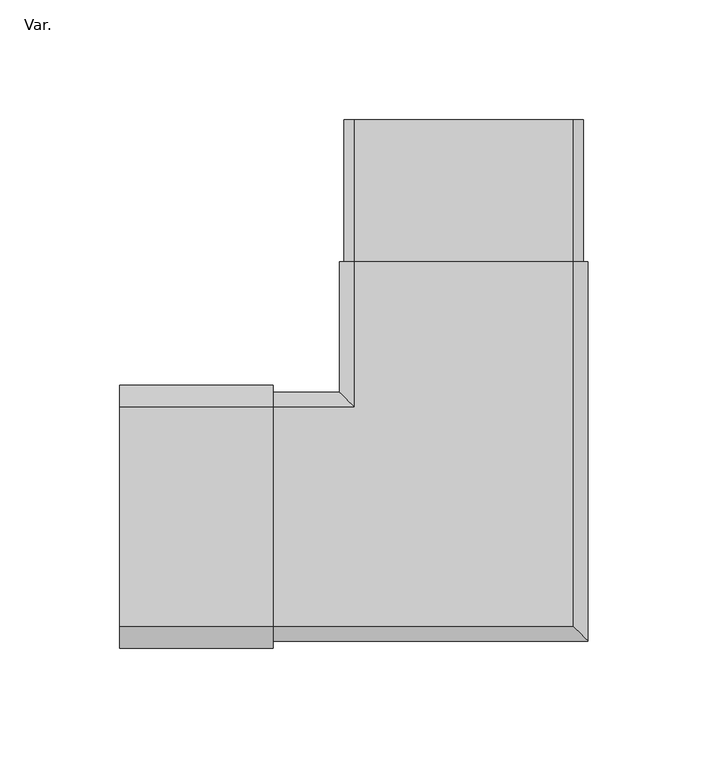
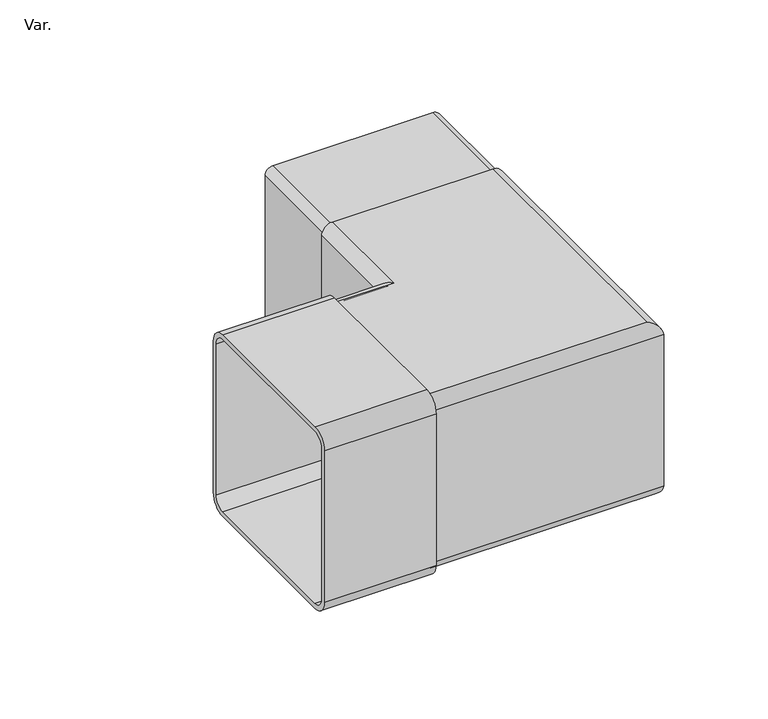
"""IFC4 building model written with IfcOpenShell, lengths in millimetres: pipe fitting geometry, PavcoWavin_UnionesDeTuberia_ZBajante Rainmax_Codo_NoUsarUnion : Var.."""

from ifc_helpers import new_model, si_unit, point, frame, frame_2d, origin, place, context, project, spatial, polyline, circle_curve, ellipse_curve, trimmed, segment, composite_curve, outline, extrude, source, transform, mapped, element, save
from ifc_brep_helpers import plane_surface, cylinder_surface, revolved_surface, advanced_brep


def var_9b596f50(model_context):
    return source(origin(), model_context, "Body", "SolidModel", [
        extrude(outline(composite_curve([segment(polyline([(-45.5, 50.0), (45.5, 50.0)]), True, "CONTINUOUS"), segment(trimmed(circle_curve(frame_2d((45.5, 45.5)), 4.5), [point((45.5, 50.0))], [point((50.0, 45.5))], False, "CARTESIAN"), True, "CONTINUOUS"), segment(polyline([(50.0, 45.5), (50.0, -45.5)]), True, "CONTINUOUS"), segment(trimmed(circle_curve(frame_2d((45.5, -45.5)), 4.5), [point((50.0, -45.5))], [point((45.5, -50.0))], False, "CARTESIAN"), True, "CONTINUOUS"), segment(polyline([(45.5, -50.0), (-45.5, -50.0)]), True, "CONTINUOUS"), segment(trimmed(circle_curve(frame_2d((-45.5, -45.5)), 4.5), [point((-45.5, -50.0))], [point((-50.0, -45.5))], False, "CARTESIAN"), True, "CONTINUOUS"), segment(polyline([(-50.0, -45.5), (-50.0, 45.5)]), True, "CONTINUOUS"), segment(trimmed(circle_curve(frame_2d((-45.5, 45.5)), 4.5), [point((-50.0, 45.5))], [point((-45.5, 50.0))], False, "CARTESIAN"), True, "CONTINUOUS")], self_intersect=False), holes=[composite_curve([segment(trimmed(circle_curve(frame_2d((45.5, 45.5)), 1.6), [point((47.1, 45.5))], [point((45.5, 47.1))], True, "CARTESIAN"), True, "CONTINUOUS"), segment(polyline([(45.5, 47.1), (-45.5, 47.1)]), True, "CONTINUOUS"), segment(trimmed(circle_curve(frame_2d((-45.5, 45.5)), 1.6), [point((-45.5, 47.1))], [point((-47.1, 45.5))], True, "CARTESIAN"), True, "CONTINUOUS"), segment(polyline([(-47.1, 45.5), (-47.1, -45.5)]), True, "CONTINUOUS"), segment(trimmed(circle_curve(frame_2d((-45.5, -45.5)), 1.6), [point((-47.1, -45.5))], [point((-45.5, -47.1))], True, "CARTESIAN"), True, "CONTINUOUS"), segment(polyline([(-45.5, -47.1), (45.5, -47.1)]), True, "CONTINUOUS"), segment(trimmed(circle_curve(frame_2d((45.5, -45.5)), 1.6), [point((45.5, -47.1))], [point((47.1, -45.5))], True, "CARTESIAN"), True, "CONTINUOUS"), segment(polyline([(47.1, -45.5), (47.1, 45.5)]), True, "CONTINUOUS")], self_intersect=False)]), frame((0.0, 106.37, 0.0), z_axis=(0.0, 1.0, 0.0), x_axis=(0.0, 0.0, 1.0)), (0.0, 0.0, 1.0), 59.0),
        advanced_brep(
        [(-79.61, 51.825, 45.625), (-79.61, 51.825, -45.625), (-79.61, 45.625, -51.825), (-79.61, -45.625, -51.825), (-79.61, -51.825, -45.625), (-79.61, -51.825, 45.625), (-79.61, -45.625, 51.825), (-79.61, 45.625, 51.825), (-79.61, 50.0, 45.5), (-79.61, 45.5, 50.0), (-79.61, -45.5, 50.0), (-79.61, -50.0, 45.5), (-79.61, -50.0, -45.5), (-79.61, -45.5, -50.0), (-79.61, 45.5, -50.0), (-79.61, 50.0, -45.5), (-45.5, 45.5, 50.0), (-45.5, 106.37, 50.0), (45.5, 106.37, 50.0), (45.5, -45.5, 50.0), (50.0, -50.0, 45.5), (50.0, -50.0, -45.5), (45.5, -45.5, -50.0), (45.5, 106.37, -50.0), (-45.5, 106.37, -50.0), (-45.5, 45.5, -50.0), (-50.0, 50.0, -45.5), (-50.0, 50.0, 45.5), (-51.825, 51.825, 45.625), (-51.825, 51.825, -45.625), (-45.625, 45.625, -51.825), (-45.625, 106.37, -51.825), (45.625, 106.37, -51.825), (45.625, -45.625, -51.825), (51.825, -51.825, -45.625), (51.825, -51.825, 45.625), (45.625, -45.625, 51.825), (45.625, 106.37, 51.825), (-45.625, 106.37, 51.825), (-45.625, 45.625, 51.825), (-51.825, 106.37, 45.625), (51.825, 106.37, 45.625), (51.825, 106.37, -45.625), (-51.825, 106.37, -45.625), (-50.0, 106.37, 45.5), (-50.0, 106.37, -45.5), (50.0, 106.37, -45.5), (50.0, 106.37, 45.5)],
        [
            (0, 1),
            (1, 2, circle_curve(frame((-79.61, 45.625, -45.625), z_axis=(-1.0, 0.0, 0.0), x_axis=(0.0, 1.0, 0.0)), 6.2)),
            (2, 3),
            (3, 4, circle_curve(frame((-79.61, -45.625, -45.625), z_axis=(-1.0, 0.0, 0.0), x_axis=(0.0, 1.0, 0.0)), 6.2)),
            (4, 5),
            (5, 6, circle_curve(frame((-79.61, -45.625, 45.625), z_axis=(-1.0, 0.0, 0.0), x_axis=(0.0, 1.0, 0.0)), 6.2)),
            (6, 7),
            (7, 0, circle_curve(frame((-79.61, 45.625, 45.625), z_axis=(-1.0, 0.0, 0.0), x_axis=(0.0, 1.0, 0.0)), 6.2)),
            (8, 9, circle_curve(frame((-79.61, 45.5, 45.5), z_axis=(1.0, 0.0, 0.0), x_axis=(0.0, 1.0, 0.0)), 4.5)),
            (9, 10),
            (10, 11, circle_curve(frame((-79.61, -45.5, 45.5), z_axis=(1.0, 0.0, 0.0), x_axis=(0.0, 1.0, 0.0)), 4.5)),
            (11, 12),
            (12, 13, circle_curve(frame((-79.61, -45.5, -45.5), z_axis=(1.0, 0.0, 0.0), x_axis=(0.0, 1.0, 0.0)), 4.5)),
            (13, 14),
            (14, 15, circle_curve(frame((-79.61, 45.5, -45.5), z_axis=(1.0, 0.0, 0.0), x_axis=(0.0, 1.0, 0.0)), 4.5)),
            (15, 8),
            (9, 16),
            (16, 17),
            (17, 18),
            (18, 19),
            (19, 10),
            (11, 20),
            (20, 21),
            (21, 12),
            (13, 22),
            (22, 23),
            (23, 24),
            (24, 25),
            (25, 14),
            (15, 26),
            (26, 27),
            (27, 8),
            (0, 28),
            (28, 29),
            (29, 1),
            (2, 30),
            (30, 31),
            (31, 32),
            (32, 33),
            (33, 3),
            (4, 34),
            (34, 35),
            (35, 5),
            (6, 36),
            (36, 37),
            (37, 38),
            (38, 39),
            (39, 7),
            (40, 38, circle_curve(frame((-45.625, 106.37, 45.625), z_axis=(0.0, 1.0, 0.0), x_axis=(-1.0, 0.0, 0.0)), 6.2)),
            (37, 41, circle_curve(frame((45.625, 106.37, 45.625), z_axis=(0.0, 1.0, 0.0), x_axis=(-1.0, 0.0, 0.0)), 6.2)),
            (41, 42),
            (42, 32, circle_curve(frame((45.625, 106.37, -45.625), z_axis=(0.0, 1.0, 0.0), x_axis=(-1.0, 0.0, 0.0)), 6.2)),
            (31, 43, circle_curve(frame((-45.625, 106.37, -45.625), z_axis=(0.0, 1.0, 0.0), x_axis=(-1.0, 0.0, 0.0)), 6.2)),
            (43, 40),
            (44, 45),
            (45, 24, circle_curve(frame((-45.5, 106.37, -45.5), z_axis=(0.0, -1.0, 0.0), x_axis=(-1.0, 0.0, 0.0)), 4.5)),
            (23, 46, circle_curve(frame((45.5, 106.37, -45.5), z_axis=(0.0, -1.0, 0.0), x_axis=(-1.0, 0.0, 0.0)), 4.5)),
            (46, 47),
            (47, 18, circle_curve(frame((45.5, 106.37, 45.5), z_axis=(0.0, -1.0, 0.0), x_axis=(-1.0, 0.0, 0.0)), 4.5)),
            (17, 44, circle_curve(frame((-45.5, 106.37, 45.5), z_axis=(0.0, -1.0, 0.0), x_axis=(-1.0, 0.0, 0.0)), 4.5)),
            (20, 47),
            (46, 21),
            (26, 45),
            (44, 27),
            (28, 40),
            (43, 29),
            (34, 42),
            (41, 35),
            (27, 16, ellipse_curve(frame((-45.5, 45.5, 45.5), z_axis=(0.7071067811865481, 0.7071067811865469, 0.0), x_axis=(0.7071067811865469, -0.7071067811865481, 0.0)), 6.363961, 4.5)),
            (19, 20, ellipse_curve(frame((45.5, -45.5, 45.5), z_axis=(0.7071067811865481, 0.7071067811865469, 0.0), x_axis=(0.7071067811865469, -0.7071067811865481, 0.0)), 6.363961, 4.5)),
            (21, 22, ellipse_curve(frame((45.5, -45.5, -45.5), z_axis=(0.7071067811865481, 0.7071067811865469, 0.0), x_axis=(0.7071067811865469, -0.7071067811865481, 0.0)), 6.363961, 4.5)),
            (25, 26, ellipse_curve(frame((-45.5, 45.5, -45.5), z_axis=(0.7071067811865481, 0.7071067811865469, 0.0), x_axis=(0.7071067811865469, -0.7071067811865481, 0.0)), 6.363961, 4.5)),
            (29, 30, ellipse_curve(frame((-45.625, 45.625, -45.625), z_axis=(-0.7071067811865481, -0.7071067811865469, 0.0), x_axis=(-0.7071067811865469, 0.7071067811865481, 0.0)), 8.7681241, 6.2)),
            (33, 34, ellipse_curve(frame((45.625, -45.625, -45.625), z_axis=(-0.7071067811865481, -0.7071067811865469, 0.0), x_axis=(-0.7071067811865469, 0.7071067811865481, 0.0)), 8.7681241, 6.2)),
            (35, 36, ellipse_curve(frame((45.625, -45.625, 45.625), z_axis=(-0.7071067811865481, -0.7071067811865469, 0.0), x_axis=(-0.7071067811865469, 0.7071067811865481, 0.0)), 8.7681241, 6.2)),
            (39, 28, ellipse_curve(frame((-45.625, 45.625, 45.625), z_axis=(-0.7071067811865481, -0.7071067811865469, 0.0), x_axis=(-0.7071067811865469, 0.7071067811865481, 0.0)), 8.7681241, 6.2)),
        ],
        [
            plane_surface(frame((-79.61, 0.0, 0.0), z_axis=(-1.0, 0.0, 0.0), x_axis=(0.0, 0.0, 1.0))),
            plane_surface(frame((-79.61, 45.5, 50.0), z_axis=(0.0, 0.0, -1.0), x_axis=(1.0, 0.0, 0.0))),
            plane_surface(frame((-79.61, -50.0, 45.5), z_axis=(0.0, 1.0, 0.0), x_axis=(1.0, 0.0, 0.0))),
            plane_surface(frame((-79.61, -45.5, -50.0), z_axis=(0.0, 0.0, 1.0), x_axis=(1.0, 0.0, 0.0))),
            plane_surface(frame((-79.61, 50.0, -45.5), z_axis=(0.0, -1.0, 0.0), x_axis=(1.0, 0.0, 0.0))),
            plane_surface(frame((-79.61, 51.825, 45.625), z_axis=(0.0, 1.0, 0.0), x_axis=(1.0, 0.0, 0.0))),
            plane_surface(frame((-79.61, 45.625, -51.825), z_axis=(0.0, 0.0, -1.0), x_axis=(1.0, 0.0, 0.0))),
            plane_surface(frame((-79.61, -51.825, -45.625), z_axis=(0.0, -1.0, 0.0), x_axis=(1.0, 0.0, 0.0))),
            plane_surface(frame((-79.61, -45.625, 51.825), z_axis=(0.0, 0.0, 1.0), x_axis=(1.0, 0.0, 0.0))),
            plane_surface(frame((0.0, 106.37, 0.0), z_axis=(0.0, 1.0, 0.0), x_axis=(0.0, 0.0, 1.0))),
            plane_surface(frame((50.0, -50.0, 45.5), z_axis=(-1.0, 0.0, 0.0), x_axis=(0.0, 1.0, 0.0))),
            plane_surface(frame((-50.0, 50.0, -45.5), z_axis=(1.0, 0.0, 0.0), x_axis=(0.0, 1.0, 0.0))),
            plane_surface(frame((-51.825, 51.825, 45.625), z_axis=(-1.0, 0.0, 0.0), x_axis=(0.0, 1.0, 0.0))),
            plane_surface(frame((51.825, -51.825, -45.625), z_axis=(1.0, 0.0, 0.0), x_axis=(0.0, 1.0, 0.0))),
            revolved_surface(polyline([(-41.00000002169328, 50.0, 45.5), (-79.61, 50.0, 45.5)]), (-79.61, 45.5, 45.5), (1.0, 0.0, 0.0)),
            revolved_surface(polyline([(50.000000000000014, -41.0, 45.5), (-79.61, -41.0, 45.5)]), (-79.61, -45.5, 45.5), (1.0, 0.0, 0.0)),
            revolved_surface(polyline([(50.000000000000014, -41.0, -45.5), (-79.61, -41.0, -45.5)]), (-79.61, -45.5, -45.5), (1.0, 0.0, 0.0)),
            revolved_surface(polyline([(-41.00000002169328, 50.0, -45.5), (-79.61, 50.0, -45.5)]), (-79.61, 45.5, -45.5), (1.0, 0.0, 0.0)),
            cylinder_surface(frame((-79.61, 45.625, -45.625), z_axis=(-1.0, 0.0, 0.0), x_axis=(0.0, 1.0, 0.0)), 6.2),
            cylinder_surface(frame((-79.61, -45.625, -45.625), z_axis=(-1.0, 0.0, 0.0), x_axis=(0.0, 1.0, 0.0)), 6.2),
            cylinder_surface(frame((-79.61, -45.625, 45.625), z_axis=(-1.0, 0.0, 0.0), x_axis=(0.0, 1.0, 0.0)), 6.2),
            cylinder_surface(frame((-79.61, 45.625, 45.625), z_axis=(-1.0, 0.0, 0.0), x_axis=(0.0, 1.0, 0.0)), 6.2),
            revolved_surface(polyline([(-50.0, 106.37, 45.5), (-50.0, 41.000000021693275, 45.5)]), (-45.5, 0.0, 45.5), (0.0, 1.0, 0.0)),
            revolved_surface(polyline([(41.0, 106.37, 45.5), (41.0, -50.0, 45.5)]), (45.5, 0.0, 45.5), (0.0, 1.0, 0.0)),
            revolved_surface(polyline([(41.0, 106.37, -45.5), (41.0, -50.0, -45.5)]), (45.5, 0.0, -45.5), (0.0, 1.0, 0.0)),
            revolved_surface(polyline([(-50.0, 106.37, -45.5), (-50.0, 41.000000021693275, -45.5)]), (-45.5, 0.0, -45.5), (0.0, 1.0, 0.0)),
            cylinder_surface(frame((-45.625, 0.0, -45.625), z_axis=(0.0, -1.0, 0.0), x_axis=(-1.0, 0.0, 0.0)), 6.2),
            cylinder_surface(frame((45.625, 0.0, -45.625), z_axis=(0.0, -1.0, 0.0), x_axis=(-1.0, 0.0, 0.0)), 6.2),
            cylinder_surface(frame((45.625, 0.0, 45.625), z_axis=(0.0, -1.0, 0.0), x_axis=(-1.0, 0.0, 0.0)), 6.2),
            cylinder_surface(frame((-45.625, 0.0, 45.625), z_axis=(0.0, -1.0, 0.0), x_axis=(-1.0, 0.0, 0.0)), 6.2),
        ],
        [
            (0, [[1, 2, 3, 4, 5, 6, 7, 8], [9, 10, 11, 12, 13, 14, 15, 16]]),
            (1, [[-10, 17, 18, 19, 20, 21]]),
            (2, [[-12, 22, 23, 24]]),
            (3, [[-14, 25, 26, 27, 28, 29]]),
            (4, [[-16, 30, 31, 32]]),
            (5, [[-1, 33, 34, 35]]),
            (6, [[-3, 36, 37, 38, 39, 40]]),
            (7, [[-5, 41, 42, 43]]),
            (8, [[-7, 44, 45, 46, 47, 48]]),
            (9, [[49, -46, 50, 51, 52, -38, 53, 54], [55, 56, -27, 57, 58, 59, -19, 60]]),
            (10, [[-23, 61, -58, 62]]),
            (11, [[-31, 63, -55, 64]]),
            (12, [[-34, 65, -54, 66]]),
            (13, [[-42, 67, -51, 68]]),
            (14, [[-9, -32, 69, -17]]),
            (15, [[-11, -21, 70, -22]]),
            (16, [[-13, -24, 71, -25]]),
            (17, [[-15, -29, 72, -30]]),
            (18, [[-2, -35, 73, -36]]),
            (19, [[-4, -40, 74, -41]]),
            (20, [[-6, -43, 75, -44]]),
            (21, [[-8, -48, 76, -33]]),
            (22, [[-69, -64, -60, -18]]),
            (23, [[-70, -20, -59, -61]]),
            (24, [[-71, -62, -57, -26]]),
            (25, [[-72, -28, -56, -63]]),
            (26, [[-73, -66, -53, -37]]),
            (27, [[-74, -39, -52, -67]]),
            (28, [[-75, -68, -50, -45]]),
            (29, [[-76, -47, -49, -65]]),
        ],
    ),
        extrude(outline(composite_curve([segment(polyline([(-45.63, 54.73), (45.63, 54.73)]), True, "CONTINUOUS"), segment(trimmed(circle_curve(frame_2d((45.63, 45.63)), 9.1), [point((45.63, 54.73))], [point((54.73, 45.63))], False, "CARTESIAN"), True, "CONTINUOUS"), segment(polyline([(54.73, 45.63), (54.73, -45.63)]), True, "CONTINUOUS"), segment(trimmed(circle_curve(frame_2d((45.63, -45.63)), 9.1), [point((54.73, -45.63))], [point((45.63, -54.73))], False, "CARTESIAN"), True, "CONTINUOUS"), segment(polyline([(45.63, -54.73), (-45.63, -54.73)]), True, "CONTINUOUS"), segment(trimmed(circle_curve(frame_2d((-45.63, -45.63)), 9.1), [point((-45.63, -54.73))], [point((-54.73, -45.63))], False, "CARTESIAN"), True, "CONTINUOUS"), segment(polyline([(-54.73, -45.63), (-54.73, 45.63)]), True, "CONTINUOUS"), segment(trimmed(circle_curve(frame_2d((-45.63, 45.63)), 9.1), [point((-54.73, 45.63))], [point((-45.63, 54.73))], False, "CARTESIAN"), True, "CONTINUOUS")], self_intersect=False), holes=[composite_curve([segment(trimmed(circle_curve(frame_2d((45.63, 45.63)), 6.2), [point((51.83, 45.63))], [point((45.63, 51.83))], True, "CARTESIAN"), True, "CONTINUOUS"), segment(polyline([(45.63, 51.83), (-45.63, 51.83)]), True, "CONTINUOUS"), segment(trimmed(circle_curve(frame_2d((-45.63, 45.63)), 6.2), [point((-45.63, 51.83))], [point((-51.83, 45.63))], True, "CARTESIAN"), True, "CONTINUOUS"), segment(polyline([(-51.83, 45.63), (-51.83, -45.63)]), True, "CONTINUOUS"), segment(trimmed(circle_curve(frame_2d((-45.63, -45.63)), 6.2), [point((-51.83, -45.63))], [point((-45.63, -51.83))], True, "CARTESIAN"), True, "CONTINUOUS"), segment(polyline([(-45.63, -51.83), (45.63, -51.83)]), True, "CONTINUOUS"), segment(trimmed(circle_curve(frame_2d((45.63, -45.63)), 6.2), [point((45.63, -51.83))], [point((51.83, -45.63))], True, "CARTESIAN"), True, "CONTINUOUS"), segment(polyline([(51.83, -45.63), (51.83, 45.63)]), True, "CONTINUOUS")], self_intersect=False)]), frame((-143.41, 0.0, 0.0), z_axis=(1.0, 0.0, 0.0), x_axis=(0.0, 1.0, 0.0)), (0.0, 0.0, 1.0), 63.8),
    ])


if __name__ == "__main__":
    model = new_model("IFC4")
    model_context = context("Model", 3, world=origin())
    ifc_project = project(units=[si_unit("LENGTHUNIT", "METRE", prefix="MILLI")], contexts=[model_context])
    site = spatial("IfcSite", under=ifc_project)
    building = spatial("IfcBuilding", under=site)
    placement = place(None, origin())
    var_shape = var_9b596f50(model_context)
    element("IfcPipeFitting", 1, ObjectType="PavcoWavin_UnionesDeTuberia_ZBajante Rainmax_Codo_NoUsarUnion : Var.", at=placement, inside=building, context=model_context, shape_type="MappedRepresentation", body=[
        mapped(var_shape, transform((0.0, 0.0, 0.0), x_axis=(1.0, 0.0, 0.0), y_axis=(0.0, 1.0, 0.0), z_axis=(0.0, 0.0, 1.0))),
    ])
    save(model, "model.ifc")
